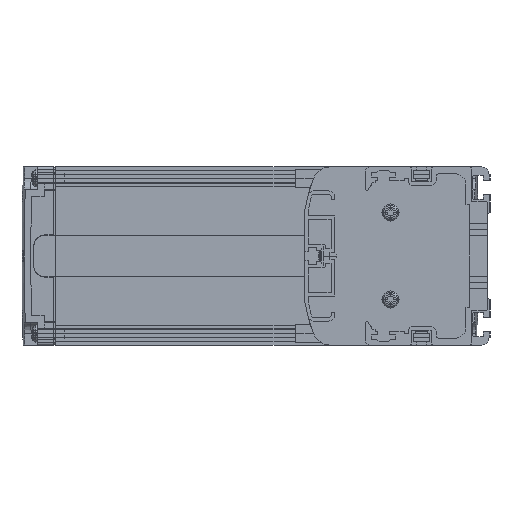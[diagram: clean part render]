
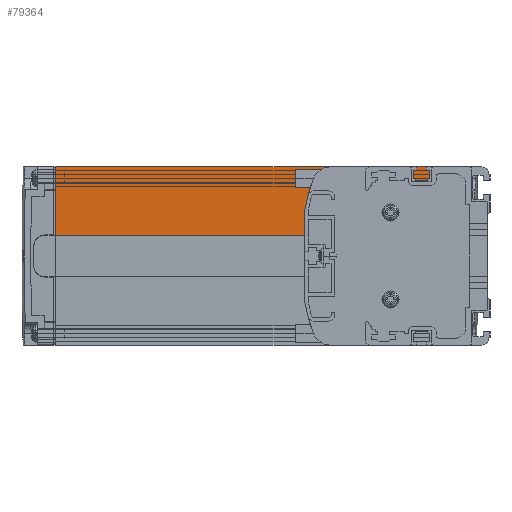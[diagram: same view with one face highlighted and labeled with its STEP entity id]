
A CAD part, left-side view. The second image highlights one B-rep face of the part: STEP entity #79364.
In plain terms, the highlighted planar face has unit normal (-1, 0, 0).
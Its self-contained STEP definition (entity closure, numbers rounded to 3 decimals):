
#77305=DIRECTION('',(0.,-1.,0.));
#77306=VECTOR('',#77305,51.);
#77307=CARTESIAN_POINT('',(3.,71.,27.));
#77308=LINE('',#77307,#77306);
#77954=DIRECTION('',(0.,-1.,0.));
#77955=VECTOR('',#77954,170.);
#77956=CARTESIAN_POINT('',(3.,190.,39.));
#77957=LINE('',#77956,#77955);
#77972=DIRECTION('',(0.,0.,-1.));
#77973=VECTOR('',#77972,29.9);
#77974=CARTESIAN_POINT('',(3.,190.,39.));
#77975=LINE('',#77974,#77973);
#77976=DIRECTION('',(0.,0.,1.));
#77977=VECTOR('',#77976,12.);
#77978=CARTESIAN_POINT('',(3.,20.,27.));
#77979=LINE('',#77978,#77977);
#77980=DIRECTION('',(0.,0.,1.));
#77981=VECTOR('',#77980,17.9);
#77982=CARTESIAN_POINT('',(3.,71.,9.1));
#77983=LINE('',#77982,#77981);
#78090=DIRECTION('',(0.,-1.,0.));
#78091=VECTOR('',#78090,119.);
#78092=CARTESIAN_POINT('',(3.,190.,9.1));
#78093=LINE('',#78092,#78091);
#78177=CARTESIAN_POINT('',(3.,20.,27.));
#78179=VERTEX_POINT('',#78177);
#78271=CARTESIAN_POINT('',(3.,20.,39.));
#78272=VERTEX_POINT('',#78271);
#78345=CARTESIAN_POINT('',(3.,190.,39.));
#78346=VERTEX_POINT('',#78345);
#78347=CARTESIAN_POINT('',(3.,190.,9.1));
#78348=VERTEX_POINT('',#78347);
#78409=CARTESIAN_POINT('',(3.,71.,27.));
#78410=VERTEX_POINT('',#78409);
#78411=CARTESIAN_POINT('',(3.,71.,9.1));
#78412=VERTEX_POINT('',#78411);
#79349=CARTESIAN_POINT('',(3.,105.,24.05));
#79350=DIRECTION('',(1.,0.,0.));
#79351=DIRECTION('',(0.,0.,1.));
#79352=AXIS2_PLACEMENT_3D('',#79349,#79350,#79351);
#79353=PLANE('',#79352);
#79354=ORIENTED_EDGE('',*,*,#78595,.F.);
#79356=ORIENTED_EDGE('',*,*,#79355,.F.);
#79358=ORIENTED_EDGE('',*,*,#79357,.F.);
#79359=ORIENTED_EDGE('',*,*,#78923,.F.);
#79360=ORIENTED_EDGE('',*,*,#79337,.T.);
#79361=ORIENTED_EDGE('',*,*,#78464,.F.);
#79362=EDGE_LOOP('',(#79354,#79356,#79358,#79359,#79360,#79361));
#79363=FACE_OUTER_BOUND('',#79362,.F.);
#79364=ADVANCED_FACE('',(#79363),#79353,.F.);
#78464=EDGE_CURVE('',#78179,#78272,#77979,.T.);
#78595=EDGE_CURVE('',#78410,#78179,#77308,.T.);
#78923=EDGE_CURVE('',#78346,#78348,#77975,.T.);
#79337=EDGE_CURVE('',#78346,#78272,#77957,.T.);
#79355=EDGE_CURVE('',#78412,#78410,#77983,.T.);
#79357=EDGE_CURVE('',#78348,#78412,#78093,.T.);
